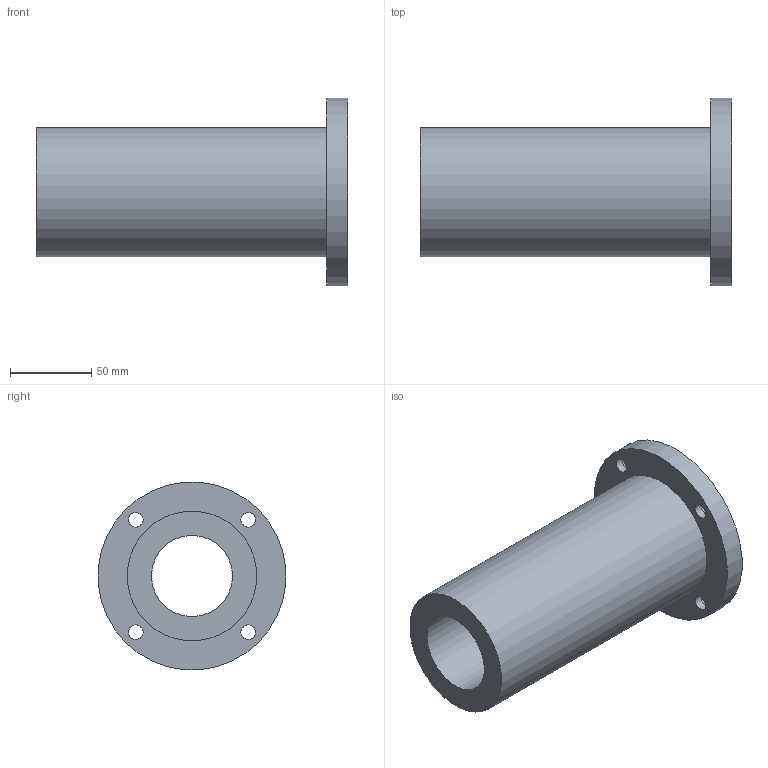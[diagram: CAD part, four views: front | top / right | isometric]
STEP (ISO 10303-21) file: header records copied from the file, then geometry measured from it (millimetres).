
FILE_DESCRIPTION(/* description */ (''),/* implementation_level */ '2;1');
FILE_NAME(/* name */ 'LMF50LUU',/* time_stamp */ '2019-07-03T10:03:20+02:00',/* author */ ('VĂ©gh MĂˇtĂ©'),/* organization */ ('Bearing Kft'),/* preprocessor_version */ 'ST-DEVELOPER v16.7',/* originating_system */ 'DEX',/* authorisation */ $);
FILE_SCHEMA (('AUTOMOTIVE_DESIGN {1 0 10303 214 3 1 1}'));
Length unit declared in the file: millimetre
Products named in the file (1): LMF50LUU
Bounding box: 192 x 115.56 x 115.56 mm (x, y, z)
Volume: 653892.2 mm3; surface area: 98618.5 mm2
Topology: 1 solids, 1 shells, 325 faces, 813 edges, 542 vertices
Faces by surface type: plane 253, bspline 60, cylinder 12
Full cylindrical faces by diameter (mm): 9 x4, 14 x4, 50 x1, 80 x1, 116 x1
Entity records: 13111 total; most frequent: CARTESIAN_POINT 5707, ORIENTED_EDGE 1598, DIRECTION 1235, EDGE_CURVE 799, LINE 655, VECTOR 655, VERTEX_POINT 542, EDGE_LOOP 401
